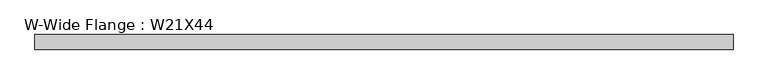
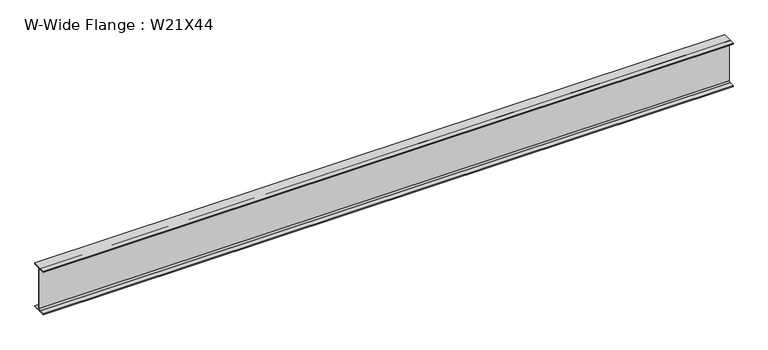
"""IFC4 building model written with IfcOpenShell, lengths in millimetres: beam geometry, W-Wide Flange : W21X44."""

from ifc_helpers import new_model, si_unit, point, frame, frame_2d, origin, place, context, project, spatial, polyline, circle_curve, trimmed, segment, composite_curve, outline, extrude, source, transform, mapped, element, save


def w_wide_flange_w21x44_42aa095b(model_context):
    return source(origin(), model_context, "Body", "SweptSolid", [
        extrude(outline(composite_curve([segment(polyline([(82.55, -251.46), (82.55, -262.89), (-82.55, -262.89), (-82.55, -251.46), (-21.59, -251.46)]), True, "CONTINUOUS"), segment(trimmed(circle_curve(frame_2d((-21.59, -234.315)), 17.145), [point((-21.59, -251.46))], [point((-4.445, -234.315))], True, "CARTESIAN"), True, "CONTINUOUS"), segment(polyline([(-4.445, -234.315), (-4.445, 234.315)]), True, "CONTINUOUS"), segment(trimmed(circle_curve(frame_2d((-21.59, 234.315)), 17.145), [point((-4.445, 234.315))], [point((-21.59, 251.46))], True, "CARTESIAN"), True, "CONTINUOUS"), segment(polyline([(-21.59, 251.46), (-82.55, 251.46), (-82.55, 262.89), (82.55, 262.89), (82.55, 251.46), (21.59, 251.46)]), True, "CONTINUOUS"), segment(trimmed(circle_curve(frame_2d((21.59, 234.315)), 17.145), [point((21.59, 251.46))], [point((4.445, 234.315))], True, "CARTESIAN"), True, "CONTINUOUS"), segment(polyline([(4.445, 234.315), (4.445, -234.315)]), True, "CONTINUOUS"), segment(trimmed(circle_curve(frame_2d((21.59, -234.315)), 17.145), [point((4.445, -234.315))], [point((21.59, -251.46))], True, "CARTESIAN"), True, "CONTINUOUS"), segment(polyline([(21.59, -251.46), (82.55, -251.46)]), True, "CONTINUOUS")], self_intersect=False)), frame((-3902.8387461, 0.0, 0.0), z_axis=(1.0, 0.0, 0.0), x_axis=(0.0, 1.0, 0.0)), (0.0, 0.0, 1.0), 7866.3808046),
    ])


if __name__ == "__main__":
    model = new_model("IFC4")
    model_context = context("Model", 3, world=origin())
    ifc_project = project(units=[si_unit("LENGTHUNIT", "METRE", prefix="MILLI")], contexts=[model_context])
    site = spatial("IfcSite", under=ifc_project)
    building = spatial("IfcBuilding", under=site)
    placement = place(None, origin())
    w_wide_flange_w21x44_shape = w_wide_flange_w21x44_42aa095b(model_context)
    element("IfcBeam", 1, ObjectType="W-Wide Flange : W21X44", at=placement, inside=building, context=model_context, shape_type="MappedRepresentation", body=[
        mapped(w_wide_flange_w21x44_shape, transform((0.0, 0.0, 0.0), x_axis=(1.0, 0.0, 0.0), y_axis=(0.0, 1.0, 0.0), z_axis=(0.0, 0.0, 1.0))),
    ])
    save(model, "model.ifc")
